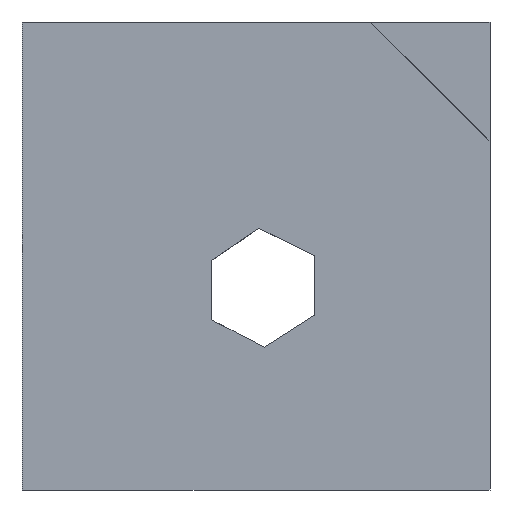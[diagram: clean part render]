
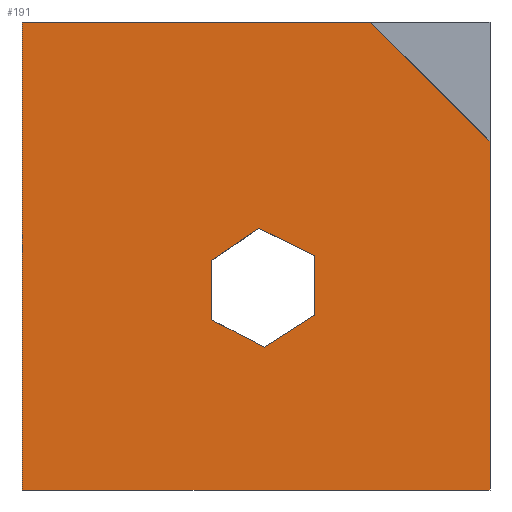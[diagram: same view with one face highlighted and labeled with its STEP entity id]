
A CAD part, front view. The second image highlights one B-rep face of the part: STEP entity #191.
In plain terms, the highlighted planar face has unit normal (0, -1, 0).
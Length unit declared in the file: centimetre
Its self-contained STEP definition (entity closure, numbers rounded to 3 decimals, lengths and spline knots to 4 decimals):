
#20 = EDGE_CURVE ( 'NONE', #473, #1071, #701, .T. ) ;
#44 = DIRECTION ( 'NONE',  ( -0.889, 0., 0.458 ) ) ;
#72 = CARTESIAN_POINT ( 'NONE',  ( 0., 0., 1000. ) ) ;
#75 = EDGE_CURVE ( 'NONE', #1071, #1183, #110, .T. ) ;
#87 = VERTEX_POINT ( 'NONE', #1431 ) ;
#110 = LINE ( 'NONE', #881, #279 ) ;
#125 = CARTESIAN_POINT ( 'NONE',  ( 625.2105, 0., 500.8926 ) ) ;
#161 = CARTESIAN_POINT ( 'NONE',  ( 1000., 0., 744.9958 ) ) ;
#188 = EDGE_CURVE ( 'NONE', #606, #997, #384, .T. ) ;
#191 = ADVANCED_FACE ( 'NONE', ( #1121, #1226 ), #1108, .F. ) ;
#197 = EDGE_CURVE ( 'NONE', #1183, #287, #505, .T. ) ;
#217 = ORIENTED_EDGE ( 'NONE', *, *, #448, .F. ) ;
#261 = ORIENTED_EDGE ( 'NONE', *, *, #814, .T. ) ;
#279 = VECTOR ( 'NONE', #965, 100. ) ;
#287 = VERTEX_POINT ( 'NONE', #1268 ) ;
#293 = VECTOR ( 'NONE', #392, 100. ) ;
#298 = CARTESIAN_POINT ( 'NONE',  ( 625.2105, 0., 373.8989 ) ) ;
#304 = LINE ( 'NONE', #72, #293 ) ;
#322 = DIRECTION ( 'NONE',  ( 0., 0., -1. ) ) ;
#367 = VECTOR ( 'NONE', #1331, 100. ) ;
#384 = LINE ( 'NONE', #161, #754 ) ;
#392 = DIRECTION ( 'NONE',  ( 1., 0., 0. ) ) ;
#397 = VERTEX_POINT ( 'NONE', #649 ) ;
#417 = ORIENTED_EDGE ( 'NONE', *, *, #1092, .T. ) ;
#439 = VECTOR ( 'NONE', #44, 100. ) ;
#448 = EDGE_CURVE ( 'NONE', #1514, #606, #304, .T. ) ;
#455 = CARTESIAN_POINT ( 'NONE',  ( 1000., 0., 744.9958 ) ) ;
#473 = VERTEX_POINT ( 'NONE', #535 ) ;
#489 = CARTESIAN_POINT ( 'NONE',  ( 0., 0., 0. ) ) ;
#505 = LINE ( 'NONE', #526, #439 ) ;
#506 = AXIS2_PLACEMENT_3D ( 'NONE', #747, #852, #986 ) ;
#512 = VERTEX_POINT ( 'NONE', #489 ) ;
#520 = CARTESIAN_POINT ( 'NONE',  ( 0., 0., 0. ) ) ;
#526 = CARTESIAN_POINT ( 'NONE',  ( 518.2684, 0., 305.1408 ) ) ;
#535 = CARTESIAN_POINT ( 'NONE',  ( 625.2105, 0., 500.8926 ) ) ;
#563 = VECTOR ( 'NONE', #991, 100. ) ;
#565 = LINE ( 'NONE', #789, #1441 ) ;
#604 = DIRECTION ( 'NONE',  ( 0.898, 0., -0.439 ) ) ;
#606 = VERTEX_POINT ( 'NONE', #948 ) ;
#607 = EDGE_CURVE ( 'NONE', #397, #473, #693, .T. ) ;
#609 = CARTESIAN_POINT ( 'NONE',  ( 0., 0., 1000. ) ) ;
#649 = CARTESIAN_POINT ( 'NONE',  ( 506.118, 0., 559.1281 ) ) ;
#672 = CARTESIAN_POINT ( 'NONE',  ( 405.2511, 0., 490.37 ) ) ;
#675 = VERTEX_POINT ( 'NONE', #1444 ) ;
#681 = ORIENTED_EDGE ( 'NONE', *, *, #188, .F. ) ;
#693 = LINE ( 'NONE', #718, #1494 ) ;
#701 = LINE ( 'NONE', #125, #961 ) ;
#718 = CARTESIAN_POINT ( 'NONE',  ( 506.118, 0., 559.1281 ) ) ;
#733 = LINE ( 'NONE', #609, #563 ) ;
#747 = CARTESIAN_POINT ( 'NONE',  ( 0., 0., 1000. ) ) ;
#754 = VECTOR ( 'NONE', #1352, 100. ) ;
#757 = EDGE_LOOP ( 'NONE', ( #1213, #1333, #899, #1181, #261, #1504 ) ) ;
#789 = CARTESIAN_POINT ( 'NONE',  ( 405.2511, 0., 363.3763 ) ) ;
#814 = EDGE_CURVE ( 'NONE', #287, #675, #565, .T. ) ;
#815 = LINE ( 'NONE', #832, #976 ) ;
#821 = DIRECTION ( 'NONE',  ( 0., 0., -1. ) ) ;
#832 = CARTESIAN_POINT ( 'NONE',  ( 1000., 0., 1000. ) ) ;
#852 = DIRECTION ( 'NONE',  ( 0., 1., 0. ) ) ;
#867 = ORIENTED_EDGE ( 'NONE', *, *, #1320, .F. ) ;
#868 = EDGE_CURVE ( 'NONE', #675, #397, #1253, .T. ) ;
#881 = CARTESIAN_POINT ( 'NONE',  ( 625.2105, 0., 373.8989 ) ) ;
#899 = ORIENTED_EDGE ( 'NONE', *, *, #75, .T. ) ;
#913 = VECTOR ( 'NONE', #1367, 100. ) ;
#928 = EDGE_LOOP ( 'NONE', ( #867, #681, #217, #417, #1457 ) ) ;
#948 = CARTESIAN_POINT ( 'NONE',  ( 744.9958, 0., 1000. ) ) ;
#961 = VECTOR ( 'NONE', #322, 100. ) ;
#965 = DIRECTION ( 'NONE',  ( -0.841, 0., -0.541 ) ) ;
#967 = LINE ( 'NONE', #520, #367 ) ;
#976 = VECTOR ( 'NONE', #821, 100. ) ;
#986 = DIRECTION ( 'NONE',  ( 0., 0., 1. ) ) ;
#991 = DIRECTION ( 'NONE',  ( 0., 0., -1. ) ) ;
#997 = VERTEX_POINT ( 'NONE', #455 ) ;
#999 = CARTESIAN_POINT ( 'NONE',  ( 518.2684, 0., 305.1408 ) ) ;
#1070 = CARTESIAN_POINT ( 'NONE',  ( 0., 0., 1000. ) ) ;
#1071 = VERTEX_POINT ( 'NONE', #298 ) ;
#1092 = EDGE_CURVE ( 'NONE', #1514, #512, #733, .T. ) ;
#1108 = PLANE ( 'NONE',  #506 ) ;
#1121 = FACE_BOUND ( 'NONE', #757, .T. ) ;
#1181 = ORIENTED_EDGE ( 'NONE', *, *, #197, .T. ) ;
#1183 = VERTEX_POINT ( 'NONE', #999 ) ;
#1213 = ORIENTED_EDGE ( 'NONE', *, *, #607, .T. ) ;
#1226 = FACE_OUTER_BOUND ( 'NONE', #928, .T. ) ;
#1253 = LINE ( 'NONE', #672, #913 ) ;
#1268 = CARTESIAN_POINT ( 'NONE',  ( 405.2511, 0., 363.3763 ) ) ;
#1320 = EDGE_CURVE ( 'NONE', #997, #87, #815, .T. ) ;
#1331 = DIRECTION ( 'NONE',  ( 1., 0., 0. ) ) ;
#1333 = ORIENTED_EDGE ( 'NONE', *, *, #20, .T. ) ;
#1352 = DIRECTION ( 'NONE',  ( 0.707, 0., -0.707 ) ) ;
#1367 = DIRECTION ( 'NONE',  ( 0.826, 0., 0.563 ) ) ;
#1431 = CARTESIAN_POINT ( 'NONE',  ( 1000., 0., 0. ) ) ;
#1441 = VECTOR ( 'NONE', #1489, 100. ) ;
#1444 = CARTESIAN_POINT ( 'NONE',  ( 405.2511, 0., 490.37 ) ) ;
#1453 = EDGE_CURVE ( 'NONE', #512, #87, #967, .T. ) ;
#1457 = ORIENTED_EDGE ( 'NONE', *, *, #1453, .T. ) ;
#1489 = DIRECTION ( 'NONE',  ( 0., 0., 1. ) ) ;
#1494 = VECTOR ( 'NONE', #604, 100. ) ;
#1504 = ORIENTED_EDGE ( 'NONE', *, *, #868, .T. ) ;
#1514 = VERTEX_POINT ( 'NONE', #1070 ) ;
